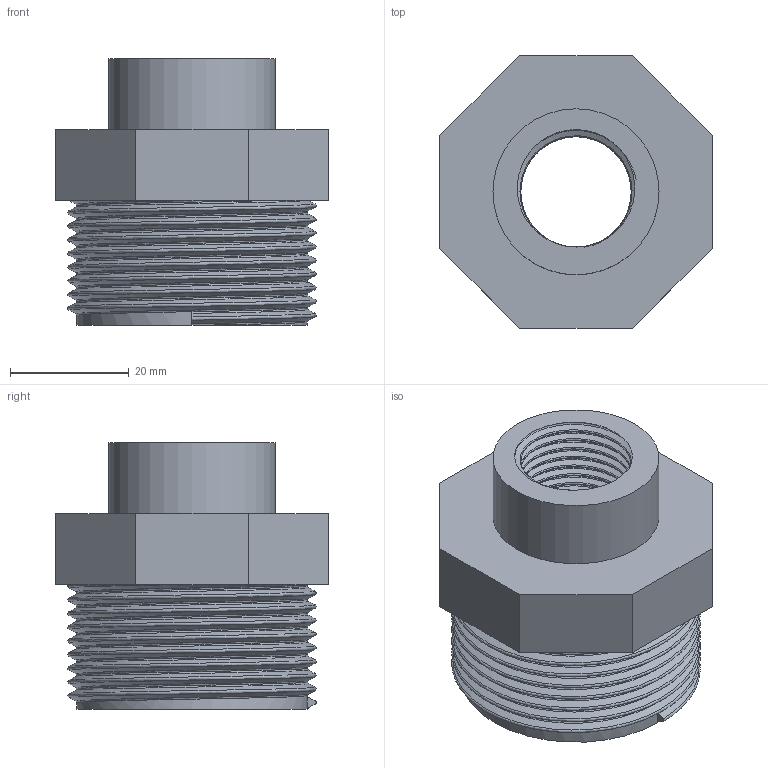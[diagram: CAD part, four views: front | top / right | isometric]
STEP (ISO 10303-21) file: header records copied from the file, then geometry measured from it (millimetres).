
FILE_DESCRIPTION(/* description */ (''),/* implementation_level */ '2;1');
FILE_NAME(/* name */ 'C:\Users\POLYPIPE\Desktop\DATASET INVENTOR\LIBRERIA EFFAST\RACCORDI 3DxWEB\RER\3D_RERRIE\3D_RERRIE040B.stp',/* time_stamp */ '2018-01-19T17:02:11+01:00',/* author */ ('POLYPIPE'),/* organization */ ('Polypipe Italia'),/* preprocessor_version */ 'ST-DEVELOPER v16.1',/* originating_system */ 'Autodesk Inventor 2016',/* authorisation */ '');
FILE_SCHEMA (('CONFIG_CONTROL_DESIGN'));
Length unit declared in the file: millimetre
Products named in the file (1): 3D_RERRIE040B
Bounding box: 46 x 46 x 45 mm (x, y, z)
Volume: 29092.2 mm3; surface area: 14720.8 mm2
Topology: 1 solids, 1 shells, 29 faces, 68 edges, 44 vertices
Faces by surface type: plane 15, bspline 10, cylinder 4
Full cylindrical faces by diameter (mm): 18.631 x1, 28 x1, 31.8 x1, 38.952 x1
Entity records: 8076 total; most frequent: CARTESIAN_POINT 7461, ORIENTED_EDGE 128, DIRECTION 94, EDGE_CURVE 64, VERTEX_POINT 43, EDGE_LOOP 37, AXIS2_PLACEMENT_3D 32, LINE 30
